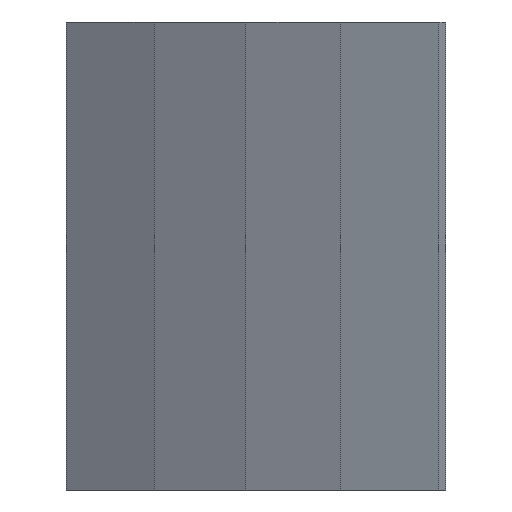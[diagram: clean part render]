
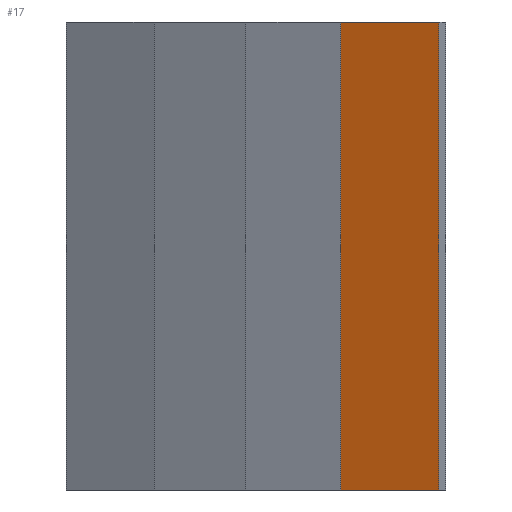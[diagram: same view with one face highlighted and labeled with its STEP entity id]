
A CAD part, left-side view. The second image highlights one B-rep face of the part: STEP entity #17.
In plain terms, the highlighted planar face has unit normal (-0.903, 0.43, 0).
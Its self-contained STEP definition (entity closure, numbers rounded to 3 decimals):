
#17 = ADVANCED_FACE('',(#18),#32,.F.);
#18 = FACE_BOUND('',#19,.F.);
#19 = EDGE_LOOP('',(#20,#55,#80,#108));
#20 = ORIENTED_EDGE('',*,*,#21,.T.);
#21 = EDGE_CURVE('',#22,#24,#26,.T.);
#22 = VERTEX_POINT('',#23);
#23 = CARTESIAN_POINT('',(-223.451,83.912,119.));
#24 = VERTEX_POINT('',#25);
#25 = CARTESIAN_POINT('',(-217.068,97.316,119.));
#26 = SURFACE_CURVE('',#27,(#31,#43),.PCURVE_S1.);
#27 = LINE('',#28,#29);
#28 = CARTESIAN_POINT('',(-223.451,83.912,119.));
#29 = VECTOR('',#30,1.);
#30 = DIRECTION('',(0.43,0.903,0.));
#31 = PCURVE('',#32,#37);
#32 = PLANE('',#33);
#33 = AXIS2_PLACEMENT_3D('',#34,#35,#36);
#34 = CARTESIAN_POINT('',(-223.451,83.912,183.));
#35 = DIRECTION('',(0.903,-0.43,0.));
#36 = DIRECTION('',(0.43,0.903,0.));
#37 = DEFINITIONAL_REPRESENTATION('',(#38),#42);
#38 = LINE('',#39,#40);
#39 = CARTESIAN_POINT('',(0.,-64.));
#40 = VECTOR('',#41,1.);
#41 = DIRECTION('',(1.,0.));
#42 = ( GEOMETRIC_REPRESENTATION_CONTEXT(2) 
PARAMETRIC_REPRESENTATION_CONTEXT() REPRESENTATION_CONTEXT('2D SPACE',''
  ) );
#43 = PCURVE('',#44,#49);
#44 = PLANE('',#45);
#45 = AXIS2_PLACEMENT_3D('',#46,#47,#48);
#46 = CARTESIAN_POINT('',(-223.451,83.912,119.));
#47 = DIRECTION('',(0.,0.,-1.));
#48 = DIRECTION('',(0.52,0.854,0.));
#49 = DEFINITIONAL_REPRESENTATION('',(#50),#54);
#50 = LINE('',#51,#52);
#51 = CARTESIAN_POINT('',(0.,0.));
#52 = VECTOR('',#53,1.);
#53 = DIRECTION('',(0.995,-0.102));
#54 = ( GEOMETRIC_REPRESENTATION_CONTEXT(2) 
PARAMETRIC_REPRESENTATION_CONTEXT() REPRESENTATION_CONTEXT('2D SPACE',''
  ) );
#55 = ORIENTED_EDGE('',*,*,#56,.T.);
#56 = EDGE_CURVE('',#24,#57,#59,.T.);
#57 = VERTEX_POINT('',#58);
#58 = CARTESIAN_POINT('',(-217.068,97.316,183.));
#59 = SURFACE_CURVE('',#60,(#63,#69),.PCURVE_S1.);
#60 = B_SPLINE_CURVE_WITH_KNOTS('',1,(#61,#62),.UNSPECIFIED.,.F.,.F.,(2,
    2),(0.,1.),.PIECEWISE_BEZIER_KNOTS.);
#61 = CARTESIAN_POINT('',(-217.068,97.316,119.));
#62 = CARTESIAN_POINT('',(-217.068,97.316,183.));
#63 = PCURVE('',#32,#64);
#64 = DEFINITIONAL_REPRESENTATION('',(#65),#68);
#65 = B_SPLINE_CURVE_WITH_KNOTS('',1,(#66,#67),.UNSPECIFIED.,.F.,.F.,(2,
    2),(0.,1.),.PIECEWISE_BEZIER_KNOTS.);
#66 = CARTESIAN_POINT('',(14.846,-64.));
#67 = CARTESIAN_POINT('',(14.846,0.));
#68 = ( GEOMETRIC_REPRESENTATION_CONTEXT(2) 
PARAMETRIC_REPRESENTATION_CONTEXT() REPRESENTATION_CONTEXT('2D SPACE',''
  ) );
#69 = PCURVE('',#70,#75);
#70 = PLANE('',#71);
#71 = AXIS2_PLACEMENT_3D('',#72,#73,#74);
#72 = CARTESIAN_POINT('',(-217.068,97.316,183.));
#73 = DIRECTION('',(0.871,-0.491,0.));
#74 = DIRECTION('',(0.491,0.871,0.));
#75 = DEFINITIONAL_REPRESENTATION('',(#76),#79);
#76 = B_SPLINE_CURVE_WITH_KNOTS('',1,(#77,#78),.UNSPECIFIED.,.F.,.F.,(2,
    2),(0.,1.),.PIECEWISE_BEZIER_KNOTS.);
#77 = CARTESIAN_POINT('',(0.,-64.));
#78 = CARTESIAN_POINT('',(0.,0.));
#79 = ( GEOMETRIC_REPRESENTATION_CONTEXT(2) 
PARAMETRIC_REPRESENTATION_CONTEXT() REPRESENTATION_CONTEXT('2D SPACE',''
  ) );
#80 = ORIENTED_EDGE('',*,*,#81,.F.);
#81 = EDGE_CURVE('',#82,#57,#84,.T.);
#82 = VERTEX_POINT('',#83);
#83 = CARTESIAN_POINT('',(-223.451,83.912,183.));
#84 = SURFACE_CURVE('',#85,(#89,#96),.PCURVE_S1.);
#85 = LINE('',#86,#87);
#86 = CARTESIAN_POINT('',(-223.451,83.912,183.));
#87 = VECTOR('',#88,1.);
#88 = DIRECTION('',(0.43,0.903,0.));
#89 = PCURVE('',#32,#90);
#90 = DEFINITIONAL_REPRESENTATION('',(#91),#95);
#91 = LINE('',#92,#93);
#92 = CARTESIAN_POINT('',(0.,0.));
#93 = VECTOR('',#94,1.);
#94 = DIRECTION('',(1.,0.));
#95 = ( GEOMETRIC_REPRESENTATION_CONTEXT(2) 
PARAMETRIC_REPRESENTATION_CONTEXT() REPRESENTATION_CONTEXT('2D SPACE',''
  ) );
#96 = PCURVE('',#97,#102);
#97 = PLANE('',#98);
#98 = AXIS2_PLACEMENT_3D('',#99,#100,#101);
#99 = CARTESIAN_POINT('',(-223.451,83.912,183.));
#100 = DIRECTION('',(0.,0.,-1.));
#101 = DIRECTION('',(0.52,0.854,0.));
#102 = DEFINITIONAL_REPRESENTATION('',(#103),#107);
#103 = LINE('',#104,#105);
#104 = CARTESIAN_POINT('',(0.,0.));
#105 = VECTOR('',#106,1.);
#106 = DIRECTION('',(0.995,-0.102));
#107 = ( GEOMETRIC_REPRESENTATION_CONTEXT(2) 
PARAMETRIC_REPRESENTATION_CONTEXT() REPRESENTATION_CONTEXT('2D SPACE',''
  ) );
#108 = ORIENTED_EDGE('',*,*,#109,.F.);
#109 = EDGE_CURVE('',#22,#82,#110,.T.);
#110 = SURFACE_CURVE('',#111,(#114,#120),.PCURVE_S1.);
#111 = B_SPLINE_CURVE_WITH_KNOTS('',1,(#112,#113),.UNSPECIFIED.,.F.,.F.,
  (2,2),(0.,1.),.PIECEWISE_BEZIER_KNOTS.);
#112 = CARTESIAN_POINT('',(-223.451,83.912,119.));
#113 = CARTESIAN_POINT('',(-223.451,83.912,183.));
#114 = PCURVE('',#32,#115);
#115 = DEFINITIONAL_REPRESENTATION('',(#116),#119);
#116 = B_SPLINE_CURVE_WITH_KNOTS('',1,(#117,#118),.UNSPECIFIED.,.F.,.F.,
  (2,2),(0.,1.),.PIECEWISE_BEZIER_KNOTS.);
#117 = CARTESIAN_POINT('',(0.,-64.));
#118 = CARTESIAN_POINT('',(0.,0.));
#119 = ( GEOMETRIC_REPRESENTATION_CONTEXT(2) 
PARAMETRIC_REPRESENTATION_CONTEXT() REPRESENTATION_CONTEXT('2D SPACE',''
  ) );
#120 = PCURVE('',#121,#126);
#121 = PLANE('',#122);
#122 = AXIS2_PLACEMENT_3D('',#123,#124,#125);
#123 = CARTESIAN_POINT('',(-221.133,82.975,183.));
#124 = DIRECTION('',(0.375,0.927,-0.));
#125 = DIRECTION('',(-0.927,0.375,0.));
#126 = DEFINITIONAL_REPRESENTATION('',(#127),#130);
#127 = B_SPLINE_CURVE_WITH_KNOTS('',1,(#128,#129),.UNSPECIFIED.,.F.,.F.,
  (2,2),(0.,1.),.PIECEWISE_BEZIER_KNOTS.);
#128 = CARTESIAN_POINT('',(2.5,-64.));
#129 = CARTESIAN_POINT('',(2.5,0.));
#130 = ( GEOMETRIC_REPRESENTATION_CONTEXT(2) 
PARAMETRIC_REPRESENTATION_CONTEXT() REPRESENTATION_CONTEXT('2D SPACE',''
  ) );
